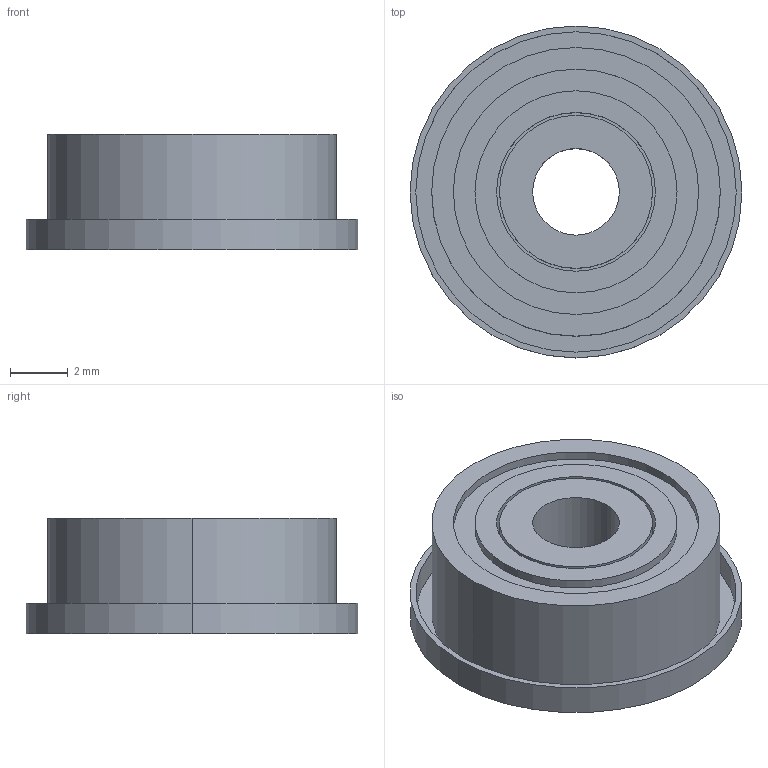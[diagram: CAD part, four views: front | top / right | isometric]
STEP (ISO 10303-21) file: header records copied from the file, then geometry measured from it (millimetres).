
FILE_DESCRIPTION (( 'STEP AP214' ), '1' );
FILE_NAME ('A100 Íàáîð êðåïëåíèé äëÿ äåëüòà êîðïóñà, ïîäøèïíèê.STEP', '2019-04-26T10:01:27', ( 'Ïîëüçîâàòåëü Windows' ), ( '' ), 'SwSTEP 2.0', 'SolidWorks 2018', '' );
FILE_SCHEMA (( 'AUTOMOTIVE_DESIGN' ));
Length unit declared in the file: millimetre
Products named in the file (1): A100 Íàáîð êðåïëåíèé äëÿ äåëüòà êîðïóñà, ïîäøèïíèê
Bounding box: 11.5 x 11.5 x 4 mm (x, y, z)
Volume: 278.6 mm3; surface area: 654.5 mm2
Topology: 3 solids, 3 shells, 36 faces, 72 edges, 48 vertices
Faces by surface type: cylinder 24, plane 12
Entity records: 1028 total; most frequent: DIRECTION 194, CARTESIAN_POINT 157, ORIENTED_EDGE 144, AXIS2_PLACEMENT_3D 85, EDGE_CURVE 72, CIRCLE 48, VERTEX_POINT 48, EDGE_LOOP 48
